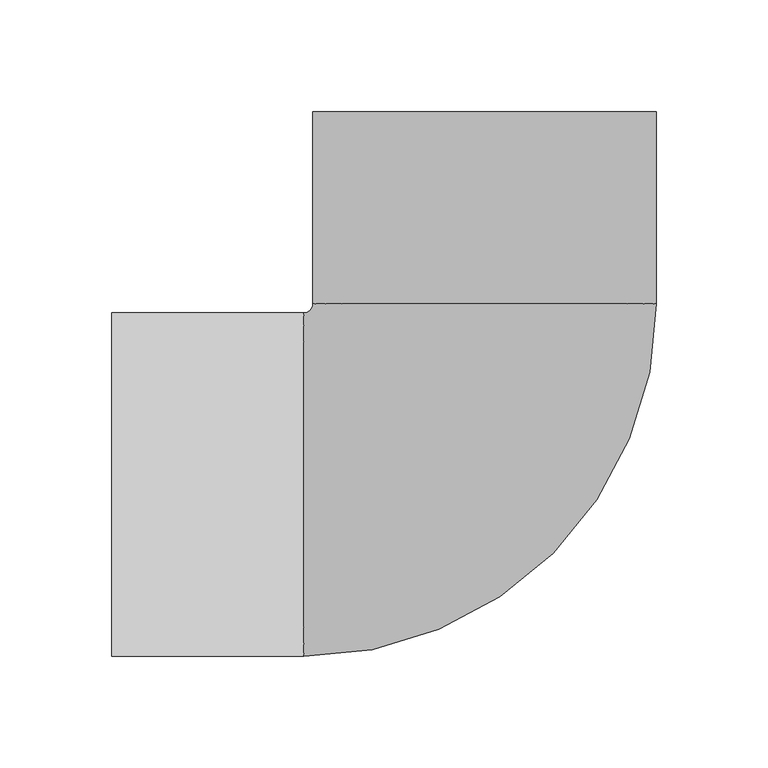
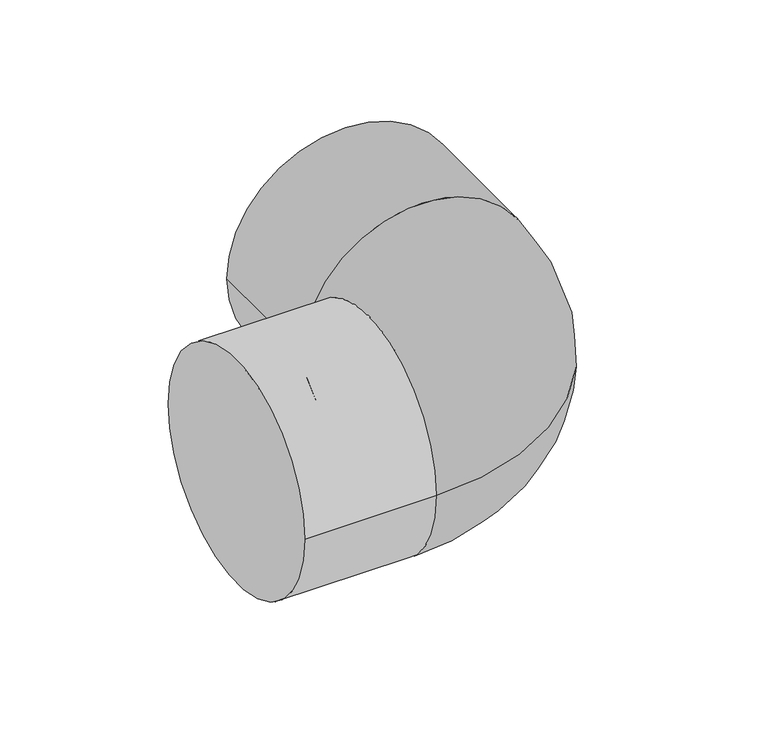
"""IFC4 building model written with IfcOpenShell, lengths in millimetres: pipe fitting geometry, 01051001 : Coudes à 90º."""

from ifc_helpers import new_model, si_unit, point, frame, origin, place, context, project, spatial, circle_curve, ellipse_curve, trimmed, source, transform, mapped, element, save
from ifc_brep_helpers import plane_surface, cylinder_surface, revolved_surface, advanced_brep


def pipe_fitting_15e55051(model_context):
    return source(origin(), model_context, "Body", "AdvancedBrep", [
        advanced_brep(
        [(-81.0, -76.95, 0.0), (76.95, 81.0, 0.0), (-76.95, 81.0, 0.0), (-81.0, 76.95, 0.0), (-76.95, 167.0, 0.0), (76.95, 167.0, 0.0), (-167.0, 76.95, 0.0), (-167.0, -76.95, 0.0)],
        [
            (0, 1, circle_curve(frame((-81.0, 81.0, 0.0), z_axis=(0.0, 0.0, 1.0), x_axis=(1.0, 0.0, 0.0)), 157.95)),
            (1, 2, circle_curve(frame((0.0, 81.0, 0.0), z_axis=(0.0, -1.0, 0.0), x_axis=(1.0, 0.0, 0.0)), 76.95)),
            (2, 3, circle_curve(frame((-81.0, 81.0, 0.0), z_axis=(0.0, 0.0, -1.0), x_axis=(1.0, 0.0, 0.0)), 4.05)),
            (3, 0, circle_curve(frame((-81.0, 0.0, 0.0), z_axis=(1.0, 0.0, 0.0), x_axis=(0.0, -1.0, 0.0)), 76.95)),
            (2, 1, circle_curve(frame((0.0, 81.0, 0.0), z_axis=(0.0, -1.0, 0.0), x_axis=(1.0, 0.0, 0.0)), 76.95)),
            (0, 3, circle_curve(frame((-81.0, 0.0, 0.0), z_axis=(1.0, 0.0, 0.0), x_axis=(0.0, -1.0, 0.0)), 76.95)),
            (4, 5, circle_curve(frame((0.0, 167.0, 0.0), z_axis=(0.0, 1.0, 0.0), x_axis=(1.0, 0.0, 0.0)), 76.95)),
            (5, 4, circle_curve(frame((0.0, 167.0, 0.0), z_axis=(0.0, 1.0, 0.0), x_axis=(1.0, 0.0, 0.0)), 76.95)),
            (4, 2),
            (1, 5),
            (6, 7, circle_curve(frame((-167.0, 0.0, 0.0), z_axis=(-1.0, 0.0, 0.0), x_axis=(0.0, -1.0, 0.0)), 76.95)),
            (7, 6, circle_curve(frame((-167.0, 0.0, 0.0), z_axis=(-1.0, 0.0, 0.0), x_axis=(0.0, -1.0, 0.0)), 76.95)),
            (3, 6),
            (7, 0),
        ],
        [
            revolved_surface(trimmed(ellipse_curve(frame((0.0, 81.0, 0.0), z_axis=(0.0, 1.0, 0.0), x_axis=(1.0, 0.0, 0.0)), 76.95, 76.95), [point((-76.95, 81.0, 0.0))], [point((76.95, 81.0, 0.0))], True, "CARTESIAN"), (-81.0, 81.0, 0.0), (0.0, 0.0, -1.0)),
            revolved_surface(trimmed(ellipse_curve(frame((0.0, 81.0, 0.0), z_axis=(0.0, 1.0, 0.0), x_axis=(1.0, 0.0, 0.0)), 76.95, 76.95), [point((76.95, 81.0, 0.0))], [point((-76.95, 81.0, 0.0))], True, "CARTESIAN"), (-81.0, 81.0, 0.0), (0.0, 0.0, -1.0)),
            plane_surface(frame((0.0, 167.0, 0.0), z_axis=(0.0, 1.0, 0.0), x_axis=(0.0, 0.0, 1.0))),
            cylinder_surface(frame((0.0, 167.0, 0.0), z_axis=(0.0, 1.0, 0.0), x_axis=(1.0, 0.0, 0.0)), 76.95),
            plane_surface(frame((-167.0, 0.0, 0.0), z_axis=(-1.0, 0.0, 0.0), x_axis=(0.0, 0.0, 1.0))),
            cylinder_surface(frame((-81.0, 0.0, 0.0), z_axis=(1.0, 0.0, 0.0), x_axis=(0.0, -1.0, 0.0)), 76.95),
        ],
        [
            (0, [[1, 2, 3, 4]]),
            (1, [[-3, 5, -1, 6]]),
            (2, [[7, 8]]),
            (3, [[-7, 9, -2, 10]]),
            (3, [[-8, -10, -5, -9]]),
            (4, [[11, 12]]),
            (5, [[-4, 13, -12, 14]]),
            (5, [[-6, -14, -11, -13]]),
        ],
    ),
    ])


if __name__ == "__main__":
    model = new_model("IFC4")
    model_context = context("Model", 3, world=origin())
    ifc_project = project(units=[si_unit("LENGTHUNIT", "METRE", prefix="MILLI")], contexts=[model_context])
    site = spatial("IfcSite", under=ifc_project)
    building = spatial("IfcBuilding", under=site)
    placement = place(None, origin())
    pipe_fitting_shape = pipe_fitting_15e55051(model_context)
    element("IfcPipeFitting", 1, ObjectType="01051001 : Coudes à 90º", at=placement, inside=building, context=model_context, shape_type="MappedRepresentation", body=[
        mapped(pipe_fitting_shape, transform((0.0, 0.0, 0.0), x_axis=(1.0, 0.0, 0.0), y_axis=(0.0, 1.0, 0.0), z_axis=(0.0, 0.0, 1.0))),
    ])
    save(model, "model.ifc")
